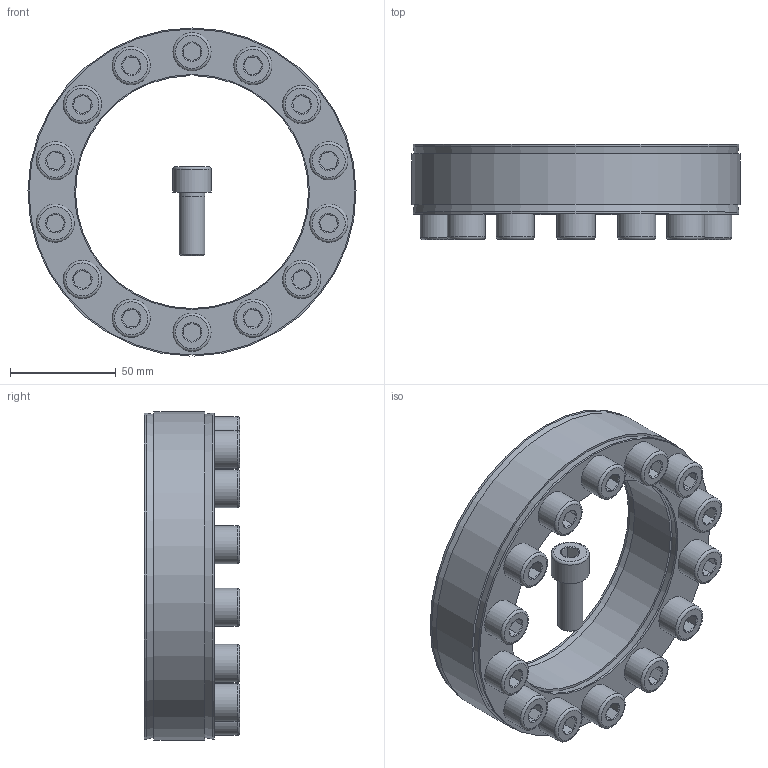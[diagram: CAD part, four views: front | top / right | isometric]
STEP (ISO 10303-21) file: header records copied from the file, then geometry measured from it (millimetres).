
FILE_DESCRIPTION( ( 'Unknown' ), '1' );
FILE_NAME( 'C:/Dokumente und Einstellungen/Sven/Desktop/homepage/cad - homepage/KBS40/KBS 40 - 110 x 155.stp', 'Unknown', ( 'Unknown' ), ( 'Unknown' ), 'XStep 1.0', 'Unknown', ' ' );
FILE_SCHEMA( ( 'automotive_design' ) );
Length unit declared in the file: millimetre
Products named in the file (16): Assem1; KBS 40 110x155; ISO 4762 M12x30; ISO 4762 M12x30-oa0; ISO 4762 M12x30-oa1; ISO 4762 M12x30-oa2; ISO 4762 M12x30-oa3; ISO 4762 M12x30-oa4; ISO 4762 M12x30-oa5; ISO 4762 M12x30-oa6; ISO 4762 M12x30-oa7; ISO 4762 M12x30-oa8; ISO 4762 M12x30-oa9; ISO 4762 M12x30-oa10; ISO 4762 M12x30-oa11; ISO 4762 M12x30-oa12
Bounding box: 154.99 x 45 x 154.99 mm (x, y, z)
Volume: 672274.7 mm3; surface area: 192938.9 mm2
Topology: 30 solids, 30 shells, 788 faces, 1456 edges, 840 vertices
Faces by surface type: plane 376, cone 204, cylinder 152, torus 56
Full cylindrical faces by diameter (mm): 11 x28, 12 x84, 18 x28, 111 x4, 154 x4
Entity records: 9689 total; most frequent: CARTESIAN_POINT 2022, DIRECTION 1600, ORIENTED_EDGE 1156, AXIS2_PLACEMENT_3D 696, EDGE_LOOP 600, EDGE_CURVE 578, FACE_OUTER_BOUND 496, ADVANCED_FACE 394
